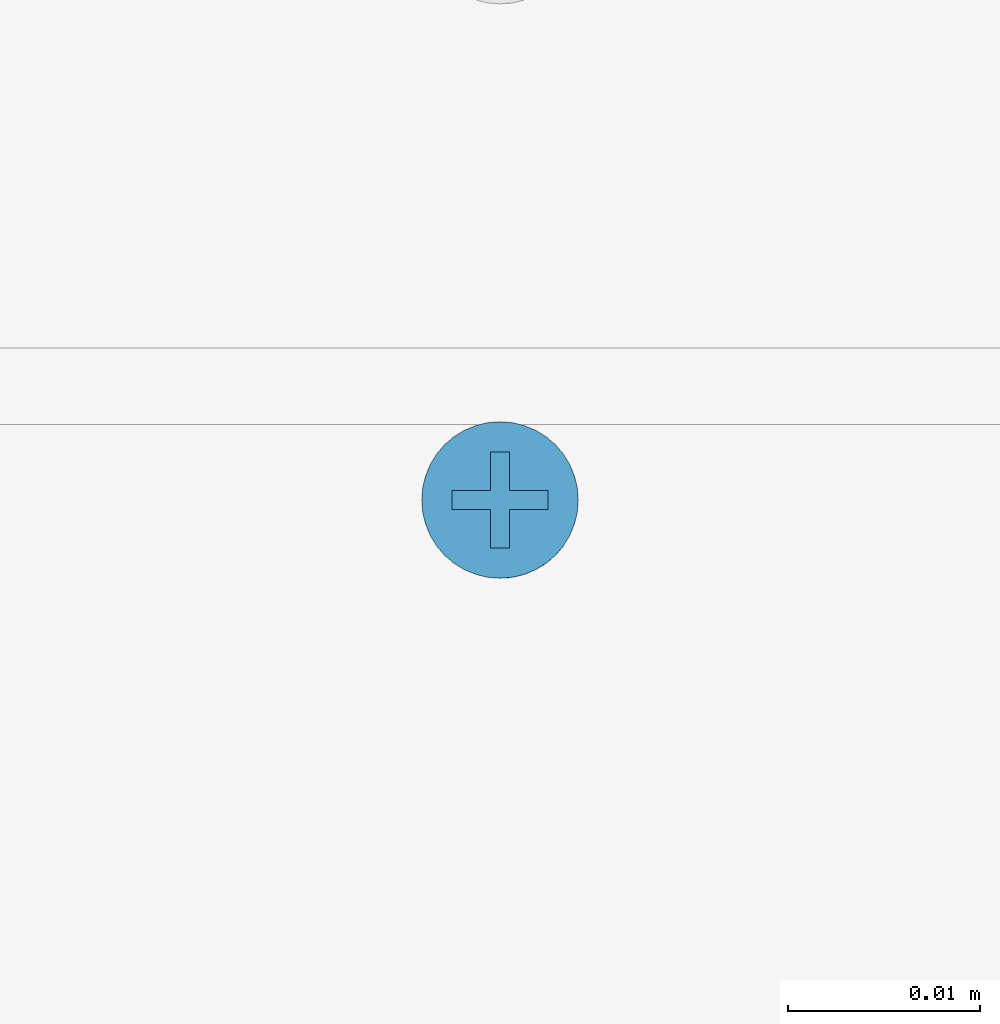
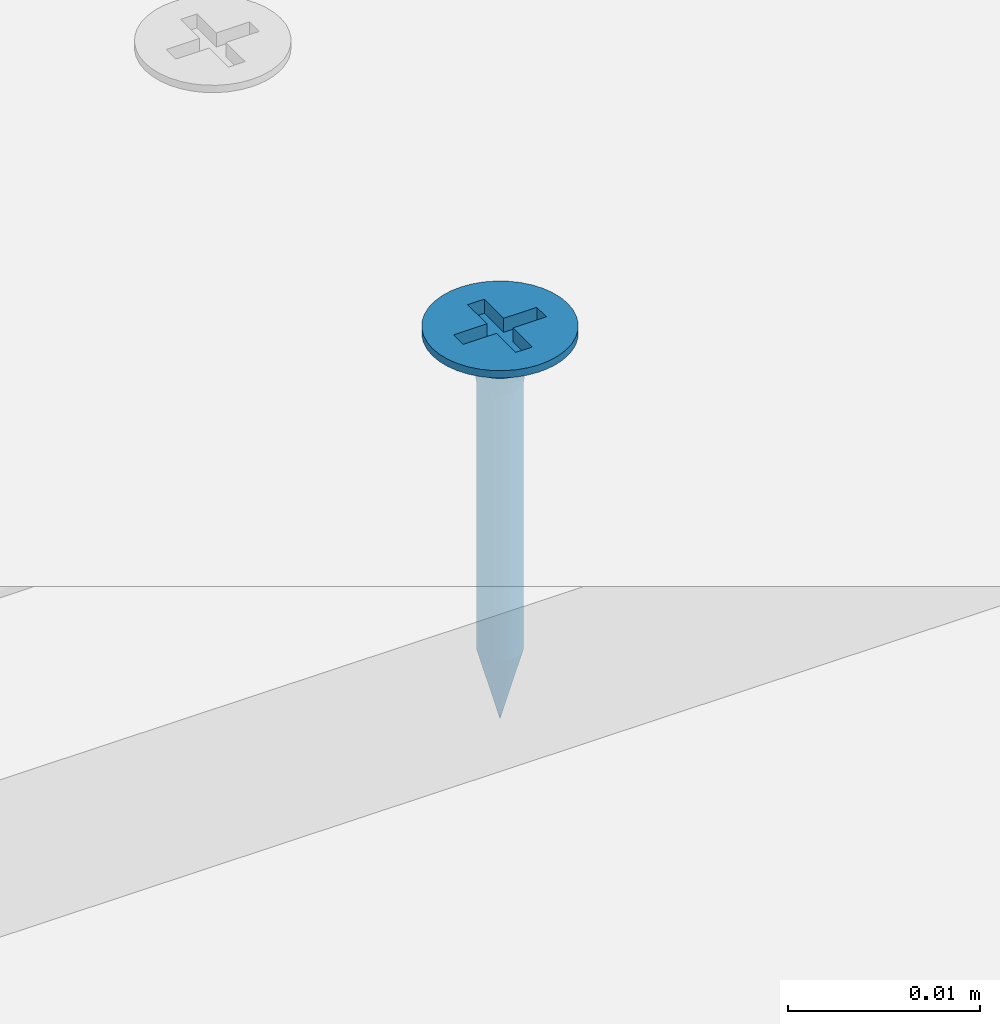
# One storey, part 8 of 38: 1 slab.
"""IFC2X3 building model written with IfcOpenShell, lengths in millimetres."""

from ifc_helpers import new_model, entity, si_unit, converted_unit, direction, frame, origin, origin_with_axes, place, context, project, spatial, faceted_brep, element, save


model = new_model("IFC2X3")

# Units and contexts
model_context = context("Model", 3, precision=1e-05, world=origin(), true_north=direction((0.0, 1.0, 0.0)))
ifc_project = project(units=[si_unit("LENGTHUNIT", "METRE", prefix="MILLI"), si_unit("AREAUNIT", "SQUARE_METRE"), si_unit("VOLUMEUNIT", "CUBIC_METRE"), converted_unit("PLANEANGLEUNIT", "DEGREE", entity("IfcPlaneAngleMeasure", 0.01745), si_unit("PLANEANGLEUNIT", "RADIAN"), dimensions=[0, 0, 0, 0, 0, 0, 0]), si_unit("SOLIDANGLEUNIT", "STERADIAN"), si_unit("MASSUNIT", "GRAM"), si_unit("TIMEUNIT", "SECOND"), si_unit("THERMODYNAMICTEMPERATUREUNIT", "DEGREE_CELSIUS"), si_unit("LUMINOUSINTENSITYUNIT", "LUMEN")], contexts=[model_context])

# Site, building, storey
site_placement = place(None, origin_with_axes())
site = spatial("IfcSite", under=ifc_project, at=site_placement, Name="Default Site", CompositionType="ELEMENT")
building_placement = place(site_placement, origin_with_axes())
building = spatial("IfcBuilding", under=site, at=building_placement, Name="Default Building", CompositionType="ELEMENT")
storey_placement = place(building_placement, origin_with_axes())
storey = spatial("IfcBuildingStorey", under=building, at=storey_placement, Name="Default Building Storey", CompositionType="ELEMENT", Elevation=0.0)

# Slab
slab_placement = place(storey_placement, frame((2885.04896241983, 928.4586075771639, -3327.63691887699), z_axis=(7.956296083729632e-29, 1.0, -3.760325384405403e-13), x_axis=(-1.0, -9.786603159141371e-29, -4.718447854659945e-16)))
element("IfcSlab", 1, at=slab_placement, inside=storey, Name="Wkręt RIGIPS Rigidur 3,9x19 mm", context=model_context, shape_type="Brep", body=[
    faceted_brep([(-141.5377463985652, 3390.556721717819, 555.8000000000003), (-141.5377463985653, 3391.020944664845, 555.8000000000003), (-141.4875329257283, 3391.020944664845, 555.1619773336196), (-141.4875329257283, 3390.556721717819, 555.1619773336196), (-141.3381289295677, 3391.020944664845, 554.5396649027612), (-141.3381289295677, 3390.556721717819, 554.5396649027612), (-141.0932132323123, 3391.020944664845, 553.9483861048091), (-141.0932132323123, 3390.556721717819, 553.9483861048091), (-140.7588164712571, 3391.020944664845, 553.4027001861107), (-140.7588164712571, 3390.556721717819, 553.4027001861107), (-140.3431726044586, 3391.020944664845, 552.9160437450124), (-140.4541727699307, 3390.556721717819, 553.0314907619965), (-140.1080097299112, 3390.556721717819, 552.6986614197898), (-139.8565161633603, 3391.020944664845, 552.5003998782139), (-139.7251262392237, 3390.556721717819, 552.4088262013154), (-139.310830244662, 3391.020944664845, 552.1660031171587), (-139.310830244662, 3390.556721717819, 552.1660031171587), (-138.8708651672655, 3390.556721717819, 551.9735584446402), (-138.7195514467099, 3391.020944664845, 551.9210874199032), (-138.4113302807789, 3390.556721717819, 551.8341600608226), (-137.9385961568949, 3390.556721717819, 551.7497404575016), (-138.0972390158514, 3391.020944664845, 551.7716834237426), (-137.4592163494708, 3391.020944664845, 551.7214699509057), (-137.4592163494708, 3390.556721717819, 551.7214699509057), (-136.8211936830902, 3391.020944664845, 551.7716834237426), (-136.8211936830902, 3390.556721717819, 551.7716834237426), (-136.1988812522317, 3391.020944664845, 551.9210874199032), (-136.1988812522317, 3390.556721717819, 551.9210874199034), (-135.6076024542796, 3391.020944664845, 552.1660031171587), (-135.6076024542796, 3390.556721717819, 552.1660031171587), (-135.0619165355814, 3391.020944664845, 552.5003998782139), (-135.0619165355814, 3390.556721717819, 552.5003998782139), (-134.575260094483, 3391.020944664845, 552.9160437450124), (-134.575260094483, 3390.556721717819, 552.9160437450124), (-134.1596162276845, 3391.020944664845, 553.4027001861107), (-134.1596162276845, 3390.556721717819, 553.4027001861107), (-133.8252194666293, 3391.020944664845, 553.9483861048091), (-133.8252194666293, 3390.556721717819, 553.9483861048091), (-133.5803037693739, 3391.020944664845, 554.5396649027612), (-133.5803037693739, 3390.556721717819, 554.5396649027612), (-133.4308997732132, 3391.020944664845, 556.4380226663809), (-133.4308997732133, 3390.556721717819, 556.4380226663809), (-133.3806863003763, 3390.556721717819, 555.8000000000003), (-133.3806863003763, 3391.020944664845, 555.8000000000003), (-133.4308997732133, 3390.556721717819, 555.1619773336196), (-133.4308997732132, 3391.020944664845, 555.1619773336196), (-133.5803037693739, 3391.020944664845, 557.0603350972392), (-133.5803037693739, 3390.556721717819, 557.0603350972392), (-133.8252194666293, 3391.020944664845, 557.6516138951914), (-133.8252194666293, 3390.556721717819, 557.6516138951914), (-134.1596162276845, 3391.020944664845, 558.1972998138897), (-134.1596162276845, 3390.556721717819, 558.1972998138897), (-134.575260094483, 3391.020944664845, 558.683956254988), (-134.575260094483, 3390.556721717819, 558.683956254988), (-135.0619165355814, 3391.020944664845, 559.0996001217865), (-135.0619165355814, 3390.556721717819, 559.0996001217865), (-135.6076024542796, 3391.020944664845, 559.4339968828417), (-135.6076024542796, 3390.556721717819, 559.4339968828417), (-136.1988812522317, 3391.020944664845, 559.6789125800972), (-136.1988812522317, 3390.556721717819, 559.6789125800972), (-136.8211936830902, 3391.020944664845, 559.8283165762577), (-136.8211936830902, 3390.556721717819, 559.8283165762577), (-137.4592163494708, 3391.020944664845, 559.8785300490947), (-137.4592163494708, 3390.556721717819, 559.8785300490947), (-138.0972390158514, 3391.020944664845, 559.8283165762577), (-138.0972390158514, 3390.556721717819, 559.8283165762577), (-138.7195514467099, 3391.020944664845, 559.6789125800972), (-138.7195514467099, 3390.556721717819, 559.6789125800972), (-139.310830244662, 3391.020944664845, 559.4339968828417), (-139.310830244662, 3390.556721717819, 559.4339968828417), (-139.8565161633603, 3391.020944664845, 559.0996001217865), (-139.8565161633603, 3390.556721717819, 559.0996001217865), (-140.3431726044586, 3391.020944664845, 558.683956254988), (-140.3431726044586, 3390.556721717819, 558.683956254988), (-140.7588164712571, 3391.020944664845, 558.1972998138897), (-140.7588164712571, 3390.556721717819, 558.1972998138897), (-141.0932132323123, 3391.020944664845, 557.6516138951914), (-141.0932132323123, 3390.556721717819, 557.6516138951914), (-141.3381289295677, 3391.020944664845, 557.0603350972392), (-141.3381289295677, 3390.556721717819, 557.0603350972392), (-141.4875329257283, 3391.020944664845, 556.4380226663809), (-141.4875329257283, 3390.556721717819, 556.4380226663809), (-137.80606154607, 3388.229732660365, 554.5055560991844), (-137.4592163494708, 3387.475459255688, 554.5693795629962), (-137.6517277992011, 3387.475459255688, 554.5845305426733), (-137.4592163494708, 3388.229732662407, 554.4598930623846), (-137.8394989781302, 3387.475459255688, 554.6296104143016), (-138.1292698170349, 3388.229732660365, 554.639433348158), (-138.0179063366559, 3387.475459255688, 554.7035091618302), (-138.1825568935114, 3387.475459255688, 554.804407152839), (-138.4068150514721, 3388.229732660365, 554.8524012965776), (-138.3293964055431, 3387.475459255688, 554.929819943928), (-138.6197830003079, 3388.229732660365, 555.1299465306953), (-138.4548091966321, 3387.475459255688, 555.0766594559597), (-138.5557071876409, 3387.475459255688, 555.2413100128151), (-138.7536602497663, 3388.229732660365, 555.4531548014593), (-138.6296059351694, 3387.475459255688, 555.4197173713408), (-138.6746858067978, 3387.475459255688, 555.60748855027), (-138.7993232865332, 3388.229732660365, 555.7999999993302), (-138.6898367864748, 3387.475459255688, 555.8000000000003), (-138.753660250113, 3388.229732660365, 556.1468451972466), (-138.6746858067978, 3387.475459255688, 555.9925114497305), (-138.6296059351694, 3387.475459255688, 556.1802826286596), (-138.619783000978, 3388.229732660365, 556.4700534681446), (-138.5557071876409, 3387.475459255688, 556.3586899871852), (-138.4548091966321, 3387.475459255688, 556.5233405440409), (-138.4068150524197, 3388.229732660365, 556.7475987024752), (-138.3293964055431, 3387.475459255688, 556.6701800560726), (-138.1292698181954, 3388.229732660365, 556.9605666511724), (-138.1825568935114, 3387.475459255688, 556.7955928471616), (-138.0179063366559, 3387.475459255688, 556.8964908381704), (-137.8060615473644, 3388.229732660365, 557.0944439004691), (-137.8394989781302, 3387.475459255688, 556.9703895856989), (-137.6517277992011, 3387.475459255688, 557.0154694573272), (-137.4592163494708, 3388.229732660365, 557.1401069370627), (-137.4592163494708, 3387.475459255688, 557.0306204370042), (-137.1123711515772, 3388.229732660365, 557.0944439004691), (-137.2667048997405, 3387.475459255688, 557.0154694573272), (-137.0789337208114, 3387.475459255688, 556.9703895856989), (-136.7891628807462, 3388.229732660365, 556.9605666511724), (-136.9005263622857, 3387.475459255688, 556.8964908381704), (-136.7358758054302, 3387.475459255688, 556.7955928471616), (-136.5116176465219, 3388.229732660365, 556.7475987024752), (-136.5890362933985, 3387.475459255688, 556.6701800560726), (-136.2986496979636, 3388.229732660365, 556.4700534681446), (-136.4636235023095, 3387.475459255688, 556.5233405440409), (-136.3627255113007, 3387.475459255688, 556.3586899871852), (-136.1647724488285, 3388.229732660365, 556.1468451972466), (-136.2888267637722, 3387.475459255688, 556.1802826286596), (-136.2437468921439, 3387.475459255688, 555.9925114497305), (-136.1191094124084, 3388.229732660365, 555.7999999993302), (-136.2285959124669, 3387.475459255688, 555.8000000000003), (-136.1647724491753, 3388.229732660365, 555.4531548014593), (-136.2437468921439, 3387.475459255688, 555.60748855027), (-136.2888267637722, 3387.475459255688, 555.4197173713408), (-136.2986496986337, 3388.229732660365, 555.1299465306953), (-136.3627255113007, 3387.475459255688, 555.2413100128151), (-136.4636235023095, 3387.475459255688, 555.0766594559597), (-136.5116176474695, 3388.229732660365, 554.8524012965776), (-136.5890362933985, 3387.475459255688, 554.929819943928), (-136.7891628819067, 3388.229732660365, 554.639433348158), (-136.7358758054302, 3387.475459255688, 554.804407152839), (-136.9005263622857, 3387.475459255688, 554.7035091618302), (-137.1123711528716, 3388.229732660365, 554.5055560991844), (-137.0789337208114, 3387.475459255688, 554.6296104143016), (-137.2667048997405, 3387.475459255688, 554.5845305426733), (-137.4592163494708, 3388.936142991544, 554.1737111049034), (-137.8801308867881, 3388.936142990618, 554.229125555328), (-138.2723607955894, 3388.936142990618, 554.3915925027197), (-138.6091762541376, 3388.936142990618, 554.6500400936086), (-138.8676238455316, 3388.936142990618, 554.9868555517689), (-139.0300907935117, 3388.936142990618, 555.3790854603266), (-139.0855052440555, 3388.936142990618, 555.7999999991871), (-139.0300907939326, 3388.936142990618, 556.2209145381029), (-138.8676238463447, 3388.936142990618, 556.6131444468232), (-138.6091762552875, 3388.936142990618, 556.9499599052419), (-138.2723607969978, 3388.936142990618, 557.2084074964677), (-137.880130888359, 3388.936142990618, 557.3708744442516), (-137.4592163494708, 3388.936142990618, 557.426288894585), (-137.0383018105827, 3388.936142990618, 557.3708744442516), (-136.6460719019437, 3388.936142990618, 557.2084074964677), (-136.3092564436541, 3388.936142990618, 556.9499599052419), (-136.0508088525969, 3388.936142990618, 556.6131444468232), (-135.8883419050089, 3388.936142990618, 556.2209145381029), (-135.8329274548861, 3388.936142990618, 555.7999999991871), (-135.8883419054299, 3388.936142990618, 555.3790854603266), (-136.05080885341, 3388.936142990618, 554.9868555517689), (-136.309256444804, 3388.936142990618, 554.6500400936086), (-136.6460719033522, 3388.936142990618, 554.3915925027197), (-137.0383018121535, 3388.936142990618, 554.229125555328), (-137.4592163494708, 3389.553938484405, 553.7273431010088), (-137.9956594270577, 3389.553938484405, 553.7979671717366), (-138.4955447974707, 3389.553938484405, 554.005026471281), (-138.9248060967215, 3389.553938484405, 554.3344102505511), (-139.2541898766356, 3389.553938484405, 554.7636715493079), (-139.4612491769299, 3389.553938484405, 555.2635569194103), (-139.5318732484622, 3389.553938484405, 555.7999999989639), (-139.4612491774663, 3389.553938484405, 556.3364430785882), (-139.2541898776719, 3389.553938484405, 556.8363284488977), (-138.9248060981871, 3389.553938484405, 557.2655897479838), (-138.4955447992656, 3389.553938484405, 557.594973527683), (-137.9956594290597, 3389.553938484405, 557.8020328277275), (-137.4592163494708, 3389.553938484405, 557.8726568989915), (-136.9227732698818, 3389.553938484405, 557.8020328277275), (-136.4228878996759, 3389.553938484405, 557.594973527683), (-135.9936266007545, 3389.553938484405, 557.2655897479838), (-135.6642428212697, 3389.553938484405, 556.8363284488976), (-135.4571835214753, 3389.553938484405, 556.3364430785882), (-135.3865594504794, 3389.553938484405, 555.7999999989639), (-135.4571835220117, 3389.553938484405, 555.2635569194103), (-135.664242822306, 3389.553938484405, 554.7636715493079), (-135.9936266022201, 3389.553938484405, 554.3344102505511), (-136.4228879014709, 3389.553938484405, 554.005026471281), (-136.9227732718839, 3389.553938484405, 553.7979671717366), (-137.4592163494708, 3390.047479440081, 553.1465393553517), (-138.1459824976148, 3390.047479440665, 553.2369538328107), (-138.7859466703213, 3390.047479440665, 553.5020356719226), (-139.3354963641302, 3390.047479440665, 553.9237199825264), (-139.7571806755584, 3390.047479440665, 554.4732696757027), (-140.0222625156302, 3390.047479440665, 555.1132338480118), (-140.1126769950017, 3390.047479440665, 555.7999999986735), (-140.0222625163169, 3390.047479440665, 556.4867661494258), (-139.7571806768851, 3390.047479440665, 557.1267303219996), (-139.3354963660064, 3390.047479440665, 557.6762800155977), (-138.7859466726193, 3390.047479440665, 558.0979643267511), (-138.1459825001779, 3390.047479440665, 558.3630461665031), (-137.4592163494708, 3390.047479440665, 558.4534606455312), (-136.7724501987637, 3390.047479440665, 558.3630461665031), (-136.1324860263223, 3390.047479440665, 558.0979643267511), (-135.5829363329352, 3390.047479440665, 557.6762800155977), (-135.1612520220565, 3390.047479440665, 557.1267303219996), (-134.8961701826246, 3390.047479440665, 556.4867661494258), (-134.8057557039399, 3390.047479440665, 555.7999999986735), (-134.8961701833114, 3390.047479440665, 555.1132338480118), (-135.1612520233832, 3390.047479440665, 554.4732696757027), (-135.5829363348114, 3390.047479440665, 553.9237199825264), (-136.1324860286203, 3390.047479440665, 553.5020356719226), (-136.7724502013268, 3390.047479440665, 553.2369538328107), (-137.4592163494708, 3390.388294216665, 552.4648055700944), (-138.3224281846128, 3390.388294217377, 552.578449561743), (-139.1268135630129, 3390.388294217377, 552.9116368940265), (-139.8175549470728, 3390.388294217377, 553.4416613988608), (-140.3475794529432, 3390.388294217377, 554.1324027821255), (-140.6807667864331, 3390.388294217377, 554.9367881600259), (-140.7944107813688, 3390.388294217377, 555.7999999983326), (-140.6807667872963, 3390.388294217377, 556.6632118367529), (-140.3475794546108, 3390.388294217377, 557.4675972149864), (-139.8175549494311, 3390.388294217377, 558.1583385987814), (-139.1268135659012, 3390.388294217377, 558.6883631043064), (-138.3224281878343, 3390.388294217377, 559.0215504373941), (-137.4592163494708, 3390.388294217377, 559.1351944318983), (-136.5960045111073, 3390.388294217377, 559.0215504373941), (-135.7916191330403, 3390.388294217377, 558.6883631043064), (-135.1008777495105, 3390.388294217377, 558.1583385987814), (-134.5708532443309, 3390.388294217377, 557.4675972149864), (-134.2376659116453, 3390.388294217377, 556.6632118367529), (-134.1240219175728, 3390.388294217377, 555.7999999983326), (-134.2376659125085, 3390.388294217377, 554.9367881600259), (-134.5708532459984, 3390.388294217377, 554.1324027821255), (-135.1008777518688, 3390.388294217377, 553.4416613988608), (-135.7916191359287, 3390.388294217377, 552.9116368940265), (-136.5960045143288, 3390.388294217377, 552.578449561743), (-138.6898367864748, 3370.55807436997, 555.8000000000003), (-138.6746858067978, 3370.55807436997, 555.60748855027), (-138.6296059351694, 3370.55807436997, 555.4197173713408), (-138.5557071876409, 3370.55807436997, 555.2413100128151), (-138.4548091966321, 3370.55807436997, 555.0766594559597), (-138.3293964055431, 3370.55807436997, 554.929819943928), (-138.1825568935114, 3370.55807436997, 554.804407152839), (-138.0179063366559, 3370.55807436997, 554.7035091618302), (-137.8394989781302, 3370.55807436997, 554.6296104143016), (-137.6517277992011, 3370.55807436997, 554.5845305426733), (-137.4592163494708, 3370.55807436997, 554.5693795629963), (-137.2667048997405, 3370.55807436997, 554.5845305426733), (-137.0789337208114, 3370.55807436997, 554.6296104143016), (-136.9005263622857, 3370.55807436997, 554.7035091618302), (-136.7358758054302, 3370.55807436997, 554.804407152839), (-136.5890362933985, 3370.55807436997, 554.929819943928), (-136.4636235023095, 3370.55807436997, 555.0766594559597), (-136.3627255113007, 3370.55807436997, 555.2413100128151), (-136.2888267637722, 3370.55807436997, 555.4197173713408), (-136.2437468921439, 3370.55807436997, 555.9925114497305), (-136.2285959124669, 3370.55807436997, 555.8000000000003), (-136.2437468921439, 3370.55807436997, 555.60748855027), (-136.2888267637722, 3370.55807436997, 556.1802826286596), (-136.3627255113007, 3370.55807436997, 556.3586899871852), (-136.4636235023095, 3370.55807436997, 556.5233405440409), (-136.5890362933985, 3370.55807436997, 556.6701800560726), (-136.7358758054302, 3370.55807436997, 556.7955928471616), (-136.9005263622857, 3370.55807436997, 556.8964908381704), (-137.0789337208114, 3370.55807436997, 556.9703895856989), (-137.2667048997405, 3370.55807436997, 557.0154694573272), (-137.4592163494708, 3370.55807436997, 557.0306204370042), (-137.6517277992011, 3370.55807436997, 557.0154694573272), (-137.8394989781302, 3370.55807436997, 556.9703895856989), (-138.0179063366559, 3370.55807436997, 556.8964908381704), (-138.1825568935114, 3370.55807436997, 556.7955928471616), (-138.3293964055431, 3370.55807436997, 556.6701800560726), (-138.4548091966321, 3370.55807436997, 556.5233405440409), (-138.5557071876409, 3370.55807436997, 556.3586899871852), (-138.6296059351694, 3370.55807436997, 556.1802826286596), (-138.6746858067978, 3370.55807436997, 555.9925114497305), (-137.4592163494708, 3366.021033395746, 555.8000000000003), (-139.9592163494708, 3391.020944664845, 556.3000000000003), (-137.9592163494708, 3391.020944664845, 556.3000000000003), (-139.9592163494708, 3391.020944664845, 555.3000000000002), (-137.9592163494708, 3391.020944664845, 555.3000000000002), (-137.9592163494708, 3391.020944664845, 553.3000000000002), (-136.9592163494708, 3391.020944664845, 553.3000000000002), (-136.9592163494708, 3391.020944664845, 555.3000000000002), (-134.9592163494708, 3391.020944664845, 555.3000000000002), (-134.9592163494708, 3391.020944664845, 556.3000000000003), (-136.9592163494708, 3391.020944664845, 556.3000000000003), (-136.9592163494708, 3391.020944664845, 558.3000000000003), (-137.9592163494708, 3391.020944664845, 558.3000000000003), (-136.9592163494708, 3390.128974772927, 556.3000000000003), (-134.9592163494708, 3390.128974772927, 556.3000000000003), (-134.9592163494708, 3390.128974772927, 555.3000000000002), (-136.9592163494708, 3390.128974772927, 555.3000000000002), (-136.9592163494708, 3390.128974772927, 553.3000000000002), (-137.9592163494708, 3390.128974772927, 553.3000000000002), (-137.9592163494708, 3390.128974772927, 555.3000000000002), (-139.9592163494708, 3390.128974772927, 555.3000000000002), (-139.9592163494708, 3390.128974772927, 556.3000000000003), (-137.9592163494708, 3390.128974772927, 556.3000000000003), (-137.9592163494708, 3390.128974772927, 558.3000000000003), (-136.9592163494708, 3390.128974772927, 558.3000000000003)], [[[0, 1, 2, 3]], [[4, 5, 3, 2]], [[6, 7, 5, 4]], [[7, 6, 8, 9]], [[8, 10, 9]], [[10, 11, 9]], [[12, 11, 13]], [[11, 10, 13]], [[13, 14, 12]], [[13, 15, 14]], [[15, 16, 14]], [[17, 16, 18]], [[16, 15, 18]], [[18, 19, 17]], [[20, 19, 21]], [[19, 18, 21]], [[21, 22, 20]], [[22, 23, 20]], [[23, 22, 24, 25]], [[26, 27, 25, 24]], [[28, 29, 27, 26]], [[29, 28, 30, 31]], [[32, 33, 31, 30]], [[33, 32, 34, 35]], [[36, 37, 35, 34]], [[38, 39, 37, 36]], [[40, 41, 42, 43]], [[43, 42, 44, 45]], [[39, 38, 45, 44]], [[46, 47, 41, 40]], [[48, 49, 47, 46]], [[49, 48, 50, 51]], [[52, 53, 51, 50]], [[53, 52, 54, 55]], [[56, 57, 55, 54]], [[58, 59, 57, 56]], [[59, 58, 60, 61]], [[62, 63, 61, 60]], [[63, 62, 64, 65]], [[66, 67, 65, 64]], [[68, 69, 67, 66]], [[69, 68, 70, 71]], [[72, 73, 71, 70]], [[73, 72, 74, 75]], [[76, 77, 75, 74]], [[78, 79, 77, 76]], [[79, 78, 80, 81]], [[1, 0, 81, 80]], [[82, 83, 84]], [[82, 85, 83]], [[84, 86, 82]], [[82, 86, 87]], [[88, 87, 86]], [[87, 88, 89]], [[89, 90, 87]], [[89, 91, 90]], [[92, 91, 93]], [[92, 90, 91]], [[93, 94, 92]], [[92, 94, 95]], [[96, 95, 94]], [[95, 96, 97]], [[97, 98, 95]], [[97, 99, 98]], [[100, 99, 101]], [[100, 98, 99]], [[101, 102, 100]], [[100, 102, 103]], [[104, 103, 102]], [[103, 104, 105]], [[105, 106, 103]], [[105, 107, 106]], [[108, 107, 109]], [[108, 106, 107]], [[109, 110, 108]], [[108, 110, 111]], [[112, 111, 110]], [[111, 112, 113]], [[113, 114, 111]], [[113, 115, 114]], [[116, 115, 117]], [[116, 114, 115]], [[117, 118, 116]], [[116, 118, 119]], [[120, 119, 118]], [[119, 120, 121]], [[121, 122, 119]], [[121, 123, 122]], [[124, 123, 125]], [[124, 122, 123]], [[125, 126, 124]], [[124, 126, 127]], [[128, 127, 126]], [[127, 128, 129]], [[129, 130, 127]], [[129, 131, 130]], [[132, 131, 133]], [[132, 130, 131]], [[133, 134, 132]], [[132, 134, 135]], [[136, 135, 134]], [[135, 136, 137]], [[137, 138, 135]], [[137, 139, 138]], [[140, 139, 141]], [[140, 138, 139]], [[141, 142, 140]], [[140, 142, 143]], [[144, 143, 142]], [[143, 144, 145]], [[145, 85, 143]], [[145, 83, 85]], [[146, 85, 147]], [[82, 147, 85]], [[87, 148, 147, 82]], [[90, 149, 148, 87]], [[92, 150, 149, 90]], [[95, 151, 150, 92]], [[98, 152, 151, 95]], [[100, 153, 152, 98]], [[103, 154, 153, 100]], [[106, 155, 154, 103]], [[108, 156, 155, 106]], [[111, 157, 156, 108]], [[114, 158, 157, 111]], [[116, 159, 158, 114]], [[119, 160, 159, 116]], [[122, 161, 160, 119]], [[124, 162, 161, 122]], [[127, 163, 162, 124]], [[130, 164, 163, 127]], [[132, 165, 164, 130]], [[135, 166, 165, 132]], [[138, 167, 166, 135]], [[140, 168, 167, 138]], [[143, 169, 168, 140]], [[143, 85, 169]], [[146, 169, 85]], [[170, 146, 171]], [[147, 171, 146]], [[148, 172, 171, 147]], [[149, 173, 172, 148]], [[150, 174, 173, 149]], [[151, 175, 174, 150]], [[152, 176, 175, 151]], [[153, 177, 176, 152]], [[154, 178, 177, 153]], [[155, 179, 178, 154]], [[156, 180, 179, 155]], [[157, 181, 180, 156]], [[158, 182, 181, 157]], [[159, 183, 182, 158]], [[160, 184, 183, 159]], [[161, 185, 184, 160]], [[162, 186, 185, 161]], [[163, 187, 186, 162]], [[164, 188, 187, 163]], [[165, 189, 188, 164]], [[166, 190, 189, 165]], [[167, 191, 190, 166]], [[168, 192, 191, 167]], [[169, 193, 192, 168]], [[169, 146, 193]], [[170, 193, 146]], [[194, 170, 195]], [[171, 195, 170]], [[172, 196, 195, 171]], [[173, 197, 196, 172]], [[174, 198, 197, 173]], [[175, 199, 198, 174]], [[176, 200, 199, 175]], [[177, 201, 200, 176]], [[178, 202, 201, 177]], [[179, 203, 202, 178]], [[180, 204, 203, 179]], [[181, 205, 204, 180]], [[182, 206, 205, 181]], [[183, 207, 206, 182]], [[184, 208, 207, 183]], [[185, 209, 208, 184]], [[186, 210, 209, 185]], [[187, 211, 210, 186]], [[188, 212, 211, 187]], [[189, 213, 212, 188]], [[190, 214, 213, 189]], [[191, 215, 214, 190]], [[192, 216, 215, 191]], [[193, 217, 216, 192]], [[193, 170, 217]], [[194, 217, 170]], [[218, 19, 20]], [[218, 219, 19]], [[20, 23, 218]], [[218, 194, 219]], [[195, 219, 194]], [[219, 16, 17]], [[219, 220, 16]], [[17, 19, 219]], [[196, 220, 219, 195]], [[221, 11, 12]], [[220, 12, 14]], [[220, 221, 12]], [[14, 16, 220]], [[197, 221, 220, 196]], [[222, 7, 9]], [[9, 221, 222]], [[9, 11, 221]], [[198, 222, 221, 197]], [[5, 7, 223]], [[222, 223, 7]], [[199, 223, 222, 198]], [[223, 0, 3]], [[223, 224, 0]], [[3, 5, 223]], [[200, 224, 223, 199]], [[225, 79, 81]], [[81, 224, 225]], [[81, 0, 224]], [[201, 225, 224, 200]], [[225, 226, 77, 79]], [[202, 226, 225, 201]], [[226, 73, 75]], [[226, 227, 73]], [[75, 77, 226]], [[203, 227, 226, 202]], [[228, 69, 71]], [[71, 227, 228]], [[71, 73, 227]], [[204, 228, 227, 203]], [[228, 229, 67, 69]], [[205, 229, 228, 204]], [[229, 63, 65]], [[229, 230, 63]], [[65, 67, 229]], [[206, 230, 229, 205]], [[231, 59, 61]], [[61, 230, 231]], [[61, 63, 230]], [[207, 231, 230, 206]], [[231, 232, 57, 59]], [[208, 232, 231, 207]], [[232, 53, 55]], [[232, 233, 53]], [[55, 57, 232]], [[209, 233, 232, 208]], [[234, 49, 51]], [[51, 233, 234]], [[51, 53, 233]], [[210, 234, 233, 209]], [[234, 235, 47, 49]], [[211, 235, 234, 210]], [[235, 42, 41]], [[235, 236, 42]], [[41, 47, 235]], [[212, 236, 235, 211]], [[237, 39, 44]], [[44, 236, 237]], [[44, 42, 236]], [[213, 237, 236, 212]], [[37, 39, 238]], [[237, 238, 39]], [[214, 238, 237, 213]], [[238, 33, 35]], [[238, 239, 33]], [[35, 37, 238]], [[215, 239, 238, 214]], [[240, 29, 31]], [[31, 239, 240]], [[31, 33, 239]], [[216, 240, 239, 215]], [[27, 29, 241]], [[240, 241, 29]], [[217, 241, 240, 216]], [[217, 194, 241]], [[218, 241, 194]], [[241, 23, 25]], [[241, 218, 23]], [[25, 27, 241]], [[242, 99, 97, 243]], [[96, 244, 243, 97]], [[94, 245, 244, 96]], [[245, 94, 93, 246]], [[91, 247, 246, 93]], [[247, 91, 89, 248]], [[88, 249, 248, 89]], [[86, 250, 249, 88]], [[250, 86, 84, 251]], [[83, 252, 251, 84]], [[252, 83, 145, 253]], [[144, 254, 253, 145]], [[142, 255, 254, 144]], [[255, 142, 141, 256]], [[139, 257, 256, 141]], [[257, 139, 137, 258]], [[136, 259, 258, 137]], [[134, 260, 259, 136]], [[129, 261, 262, 131]], [[131, 262, 263, 133]], [[260, 134, 133, 263]], [[128, 264, 261, 129]], [[126, 265, 264, 128]], [[265, 126, 125, 266]], [[123, 267, 266, 125]], [[267, 123, 121, 268]], [[120, 269, 268, 121]], [[118, 270, 269, 120]], [[270, 118, 117, 271]], [[115, 272, 271, 117]], [[272, 115, 113, 273]], [[112, 274, 273, 113]], [[110, 275, 274, 112]], [[275, 110, 109, 276]], [[107, 277, 276, 109]], [[277, 107, 105, 278]], [[104, 279, 278, 105]], [[102, 280, 279, 104]], [[280, 102, 101, 281]], [[99, 242, 281, 101]], [[243, 244, 282]], [[282, 242, 243]], [[244, 245, 282]], [[246, 247, 282]], [[282, 245, 246]], [[248, 249, 282]], [[282, 247, 248]], [[249, 250, 282]], [[251, 252, 282]], [[282, 250, 251]], [[253, 254, 282]], [[282, 252, 253]], [[254, 255, 282]], [[256, 257, 282]], [[282, 255, 256]], [[258, 259, 282]], [[282, 257, 258]], [[259, 260, 282]], [[263, 262, 282]], [[282, 260, 263]], [[261, 264, 282]], [[282, 262, 261]], [[264, 265, 282]], [[266, 267, 282]], [[282, 265, 266]], [[268, 269, 282]], [[282, 267, 268]], [[269, 270, 282]], [[271, 272, 282]], [[282, 270, 271]], [[273, 274, 282]], [[282, 272, 273]], [[274, 275, 282]], [[276, 277, 282]], [[282, 275, 276]], [[278, 279, 282]], [[282, 277, 278]], [[279, 280, 282]], [[281, 242, 282]], [[282, 280, 281]], [[283, 76, 74, 284]], [[283, 285, 286, 287, 288, 289, 290, 291, 292, 293, 294, 284, 74, 72, 70, 68, 66, 64, 62, 60, 58, 56, 54, 52, 50, 48, 46, 40, 43, 45, 38, 36, 34, 32, 30, 28, 26, 24, 22, 21, 18, 15, 13, 10, 8, 6, 4, 2, 1, 80, 78, 76]], [[295, 296, 297, 298, 299, 300, 301, 302, 303, 304, 305, 306]], [[297, 290, 289, 298]], [[296, 291, 290, 297]], [[295, 292, 291, 296]], [[306, 293, 292, 295]], [[305, 294, 293, 306]], [[304, 284, 294, 305]], [[303, 283, 284, 304]], [[302, 285, 283, 303]], [[301, 286, 285, 302]], [[300, 287, 286, 301]], [[299, 288, 287, 300]], [[298, 289, 288, 299]]]),
])

save(model, "model.ifc")
